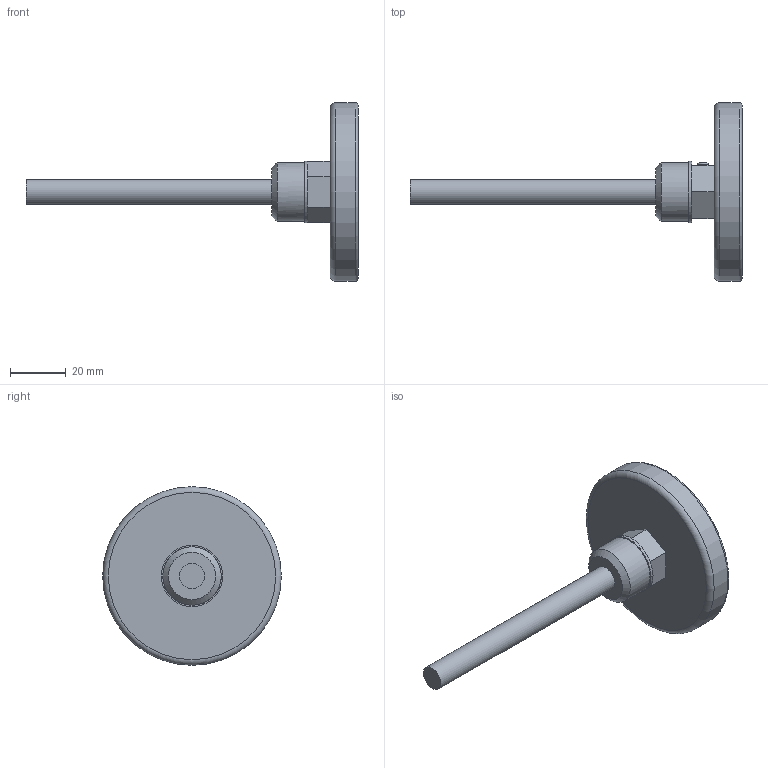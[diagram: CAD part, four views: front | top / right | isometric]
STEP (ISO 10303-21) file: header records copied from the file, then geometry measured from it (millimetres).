
FILE_DESCRIPTION(/* description */ ('БТ-31.211.100'),/* implementation_level */ '2;1');
FILE_NAME(/* name */ 'C:\STEP\БТ-31.211\БТ-31.211.100.stp',/* time_stamp */ '2023-05-23T10:05:08+03:00',/* author */ ('Tech'),/* organization */ (''),/* preprocessor_version */ 'ST-DEVELOPER v18.1',/* originating_system */ 'Autodesk Inventor 2021',/* authorisation */ '');
FILE_SCHEMA (('AUTOMOTIVE_DESIGN { 1 0 10303 214 3 1 1 }'));
Length unit declared in the file: millimetre
Products named in the file (1): БТ-31.211.100
Bounding box: 119 x 64 x 64 mm (x, y, z)
Volume: 36191.5 mm3; surface area: 18174.6 mm2
Topology: 3 solids, 3 shells, 380 faces, 943 edges, 637 vertices
Faces by surface type: plane 322, cylinder 27, bspline 26, torus 4, cone 1
Full cylindrical faces by diameter (mm): 0.564 x1, 2 x1, 2.5 x1, 4 x1, 6 x1, 7 x1, 9 x1, 12 x1, 14 x3, 20.955 x1, 22 x1, 54 x1, 64 x1
Entity records: 11804 total; most frequent: CARTESIAN_POINT 2748, ORIENTED_EDGE 1886, DIRECTION 1695, EDGE_CURVE 943, LINE 787, VECTOR 787, VERTEX_POINT 637, AXIS2_PLACEMENT_3D 454
